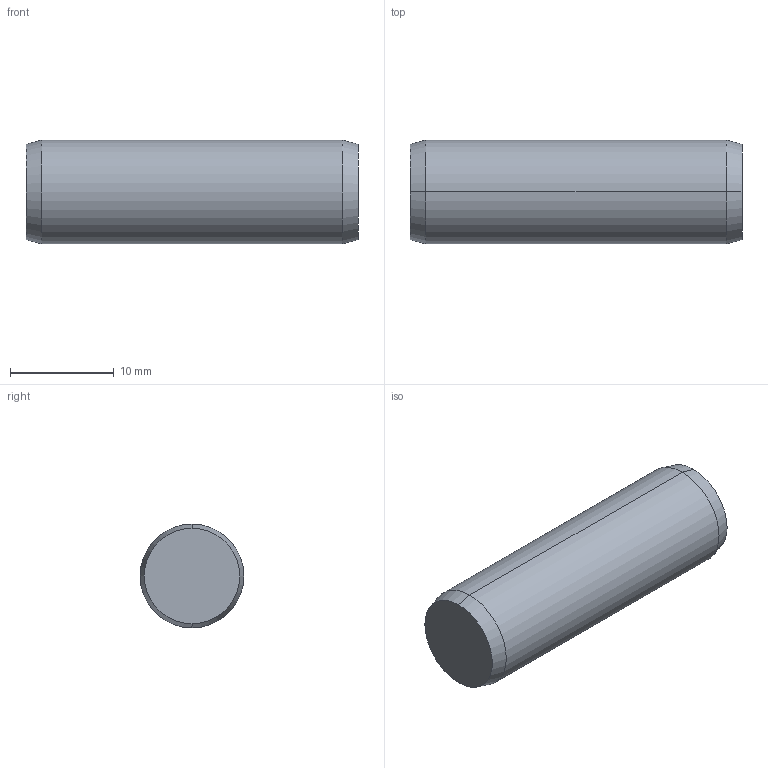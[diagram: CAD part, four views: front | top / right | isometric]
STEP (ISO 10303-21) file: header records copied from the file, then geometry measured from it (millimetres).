
FILE_DESCRIPTION (( 'STEP AP203' ), '1' );
FILE_NAME ('P1206.100-032.step', '2017-06-14T08:32:10', ( 'User' ), ( '' ), 'SwSTEP 2.0', 'SolidWorks 2009', '' );
FILE_SCHEMA (( 'CONFIG_CONTROL_DESIGN' ));
Length unit declared in the file: millimetre
Products named in the file (1): P1206.100-032
Bounding box: 32 x 10 x 10 mm (x, y, z)
Volume: 2494.8 mm3; surface area: 1137.6 mm2
Topology: 1 solids, 1 shells, 8 faces, 14 edges, 8 vertices
Faces by surface type: cone 4, cylinder 2, plane 2
Entity records: 271 total; most frequent: DIRECTION 40, CARTESIAN_POINT 31, ORIENTED_EDGE 28, AXIS2_PLACEMENT_3D 17, EDGE_CURVE 14, FACE_OUTER_BOUND 8, CIRCLE 8, ADVANCED_FACE 8
